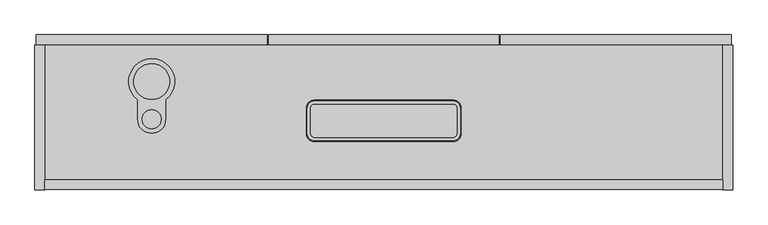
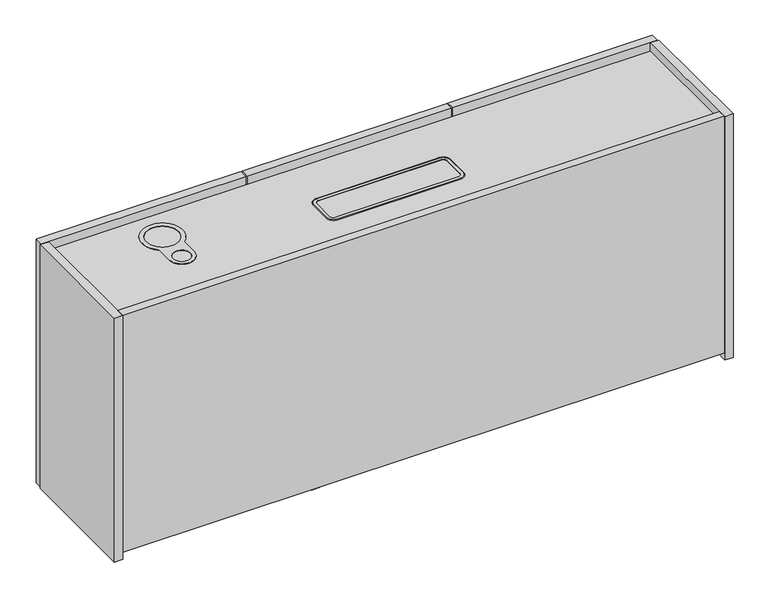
"""IFC4 building model written with IfcOpenShell, lengths in millimetres: furniture geometry, Geiger_GeigerOneCasegoods_UtilityCabinetForUseWithCredenzaDeskAccepts1Leg : Vertical Veneer 54Wx 12Dx 22.5H."""

from ifc_helpers import new_model, si_unit, point, frame, origin, place, context, project, spatial, polyline, circle_curve, ellipse_curve, trimmed, outline, extrude, faceted_brep, source, transform, mapped, element, save
from ifc_brep_helpers import plane_surface, cylinder_surface, revolved_surface, advanced_brep


def furniture_a89d6c0f(model_context):
    return source(origin(), model_context, "Body", "SolidModel", [
        faceted_brep([(1352.6, 19.5, 584.2), (1352.6, 0.5, 584.2), (1352.6, 0.5, 29.0), (1352.6, 19.5, 29.0), (1352.6, 284.3, 156.0), (1352.6, 265.3, 156.0), (1352.6, 265.3, 29.0), (1352.6, 284.3, 29.0), (19.0, 19.5, 584.2), (19.0, 19.5, 29.0), (19.0, 0.5, 29.0), (19.0, 0.5, 584.2), (19.0, 284.3, 156.0), (19.0, 284.3, 29.0), (19.0, 265.3, 29.0), (19.0, 265.3, 156.0), (467.0, 19.5, 29.0), (467.0, 19.5, 546.2), (448.0, 19.5, 546.2), (448.0, 19.5, 29.0), (467.0, 265.3, 29.0), (467.0, 283.875, 29.0), (448.0, 283.875, 29.0), (448.0, 265.3, 29.0), (448.0, 265.3, 156.0), (467.0, 265.3, 156.0), (448.0, 283.875, 156.0), (467.0, 283.875, 156.0), (448.0, 283.875, 546.2), (448.0, 283.875, 12.7), (448.0, 19.5, 12.7), (467.0, 283.875, 12.7), (467.0, 283.875, 546.2), (467.0, 19.5, 12.7)], [[[0, 1, 2, 3]], [[4, 5, 6, 7]], [[8, 9, 10, 11]], [[12, 13, 14, 15]], [[3, 16, 17, 18, 19, 9, 8, 0]], [[2, 10, 9, 19, 16, 3]], [[1, 11, 10, 2]], [[0, 8, 11, 1]], [[7, 13, 12, 4]], [[6, 20, 21, 22, 23, 14, 13, 7]], [[14, 23, 24, 15]], [[5, 25, 20, 6]], [[4, 12, 15, 24, 26, 27, 25, 5]], [[28, 26, 24, 23, 22, 29, 30, 19, 18]], [[31, 21, 20, 25, 27, 32, 17, 16, 33]], [[29, 22, 21, 31]], [[32, 27, 26, 28]], [[18, 17, 32, 28]], [[33, 16, 19, 30]], [[29, 31, 33, 30]]]),
        extrude(outline(polyline([(1352.6, 19.5), (19.0, 19.5), (19.0, 284.8), (1352.6, 284.8), (1352.6, 19.5)])), frame((0.0, 0.0, 546.2), z_axis=(0.0, 0.0, 1.0), x_axis=(1.0, 0.0, 0.0)), (0.0, 0.0, 1.0), 19.0),
        extrude(outline(polyline([(456.2, 304.8), (456.2, 285.8), (3.0, 285.8), (3.0, 304.8), (456.2, 304.8)])), frame((0.0, 0.0, 12.7), z_axis=(0.0, 0.0, 1.0), x_axis=(1.0, 0.0, 0.0)), (0.0, 0.0, 1.0), 571.5),
        extrude(outline(polyline([(1368.6, 304.8), (1368.6, 285.8), (915.4, 285.8), (915.4, 304.8), (1368.6, 304.8)])), frame((0.0, 0.0, 12.7), z_axis=(0.0, 0.0, 1.0), x_axis=(1.0, 0.0, 0.0)), (0.0, 0.0, 1.0), 571.5),
        extrude(outline(polyline([(912.4, 304.8), (912.4, 285.8), (459.2, 285.8), (459.2, 304.8), (912.4, 304.8)])), frame((0.0, 0.0, 12.7), z_axis=(0.0, 0.0, 1.0), x_axis=(1.0, 0.0, 0.0)), (0.0, 0.0, 1.0), 571.5),
        extrude(outline(polyline([(19.0, 284.8), (19.0, 0.0), (0.0, 0.0), (0.0, 284.8), (19.0, 284.8)])), frame((0.0, 0.0, 12.7), z_axis=(0.0, 0.0, 1.0), x_axis=(1.0, 0.0, 0.0)), (0.0, 0.0, 1.0), 571.5),
        extrude(outline(polyline([(1371.6, 284.8), (1371.6, 0.0), (1352.6, 0.0), (1352.6, 284.8), (1371.6, 284.8)])), frame((0.0, 0.0, 12.7), z_axis=(0.0, 0.0, 1.0), x_axis=(1.0, 0.0, 0.0)), (0.0, 0.0, 1.0), 571.5),
        advanced_brep(
        [(534.5203563, 110.825, 566.7), (533.2922964, 110.825, 565.2), (549.7, 94.4172964, 565.2), (549.7, 95.6453563, 566.7), (534.5203563, 160.025, 566.7), (533.2922964, 160.025, 565.2), (549.7, 175.2046437, 566.7), (549.7, 176.4327036, 565.2), (821.9, 175.2046437, 566.7), (821.9, 176.4327036, 565.2), (837.0796437, 160.025, 566.7), (838.3077036, 160.025, 565.2), (837.0796437, 110.825, 566.7), (838.3077036, 110.825, 565.2), (821.9, 95.6453563, 566.7), (821.9, 94.4172964, 565.2), (549.7, 102.925, 566.7), (541.8, 110.825, 566.7), (541.8, 160.025, 566.7), (549.7, 167.925, 566.7), (821.9, 167.925, 566.7), (829.8, 160.025, 566.7), (829.8, 110.825, 566.7), (821.9, 102.925, 566.7), (549.7, 102.925, 566.001635), (541.8, 110.825, 566.001635), (541.8, 160.025, 566.001635), (549.7, 167.925, 566.001635), (821.9, 167.925, 566.001635), (829.8, 160.025, 566.001635), (829.8, 110.825, 566.001635), (821.9, 102.925, 566.001635)],
        [
            (0, 1, circle_curve(frame((534.5203563, 110.825, 565.4472896), z_axis=(0.0, -1.0, 0.0), x_axis=(1.0, 0.0, 0.0)), 1.2527104)),
            (1, 2, circle_curve(frame((549.7, 110.825, 565.2), z_axis=(0.0, 0.0, 1.0), x_axis=(0.0, -1.0, 0.0)), 16.4077036)),
            (2, 3, circle_curve(frame((549.7, 95.6453563, 565.4472896), z_axis=(-1.0, 0.0, 0.0), x_axis=(0.0, 1.0, 0.0)), 1.2527104)),
            (3, 0, circle_curve(frame((549.7, 110.825, 566.7), z_axis=(0.0, 0.0, -1.0), x_axis=(0.0, -1.0, 0.0)), 15.1796437)),
            (0, 4),
            (4, 5, circle_curve(frame((534.5203563, 160.025, 565.4472896), z_axis=(0.0, -1.0, 0.0), x_axis=(1.0, 0.0, 0.0)), 1.2527104)),
            (5, 1),
            (4, 6, circle_curve(frame((549.7, 160.025, 566.7), z_axis=(0.0, 0.0, -1.0), x_axis=(-1.0, 0.0, 0.0)), 15.1796437)),
            (6, 7, circle_curve(frame((549.7, 175.2046437, 565.4472896), z_axis=(-1.0, 0.0, 0.0), x_axis=(0.0, -1.0, 0.0)), 1.2527104)),
            (7, 5, circle_curve(frame((549.7, 160.025, 565.2), z_axis=(0.0, 0.0, 1.0), x_axis=(-1.0, 0.0, 0.0)), 16.4077036)),
            (6, 8),
            (8, 9, circle_curve(frame((821.9, 175.2046437, 565.4472896), z_axis=(-1.0, 0.0, 0.0), x_axis=(0.0, -1.0, 0.0)), 1.2527104)),
            (9, 7),
            (8, 10, circle_curve(frame((821.9, 160.025, 566.7), z_axis=(0.0, 0.0, -1.0), x_axis=(0.0, 1.0, 0.0)), 15.1796437)),
            (10, 11, circle_curve(frame((837.0796437, 160.025, 565.4472896), z_axis=(0.0, 1.0, 0.0), x_axis=(-1.0, 0.0, 0.0)), 1.2527104)),
            (11, 9, circle_curve(frame((821.9, 160.025, 565.2), z_axis=(0.0, 0.0, 1.0), x_axis=(0.0, 1.0, 0.0)), 16.4077036)),
            (10, 12),
            (12, 13, circle_curve(frame((837.0796437, 110.825, 565.4472896), z_axis=(0.0, 1.0, 0.0), x_axis=(-1.0, 0.0, 0.0)), 1.2527104)),
            (13, 11),
            (12, 14, circle_curve(frame((821.9, 110.825, 566.7), z_axis=(0.0, 0.0, -1.0), x_axis=(1.0, 0.0, 0.0)), 15.1796437)),
            (14, 15, circle_curve(frame((821.9, 95.6453563, 565.4472896), z_axis=(1.0, 0.0, 0.0), x_axis=(0.0, 1.0, 0.0)), 1.2527104)),
            (15, 13, circle_curve(frame((821.9, 110.825, 565.2), z_axis=(0.0, 0.0, 1.0), x_axis=(1.0, 0.0, 0.0)), 16.4077036)),
            (2, 15),
            (14, 3),
            (16, 17, circle_curve(frame((549.7, 110.825, 566.7), z_axis=(0.0, 0.0, -1.0), x_axis=(0.0, -1.0, 0.0)), 7.9)),
            (17, 18),
            (18, 19, circle_curve(frame((549.7, 160.025, 566.7), z_axis=(0.0, 0.0, -1.0), x_axis=(-1.0, 0.0, 0.0)), 7.9)),
            (19, 20),
            (20, 21, circle_curve(frame((821.9, 160.025, 566.7), z_axis=(0.0, 0.0, -1.0), x_axis=(0.0, 1.0, 0.0)), 7.9)),
            (21, 22),
            (22, 23, circle_curve(frame((821.9, 110.825, 566.7), z_axis=(0.0, 0.0, -1.0), x_axis=(1.0, 0.0, 0.0)), 7.9)),
            (23, 16),
            (16, 24),
            (24, 25, circle_curve(frame((549.7, 110.825, 566.001635), z_axis=(0.0, 0.0, -1.0), x_axis=(0.0, -1.0, 0.0)), 7.9)),
            (25, 17),
            (25, 26),
            (26, 18),
            (26, 27, circle_curve(frame((549.7, 160.025, 566.001635), z_axis=(0.0, 0.0, -1.0), x_axis=(-1.0, 0.0, 0.0)), 7.9)),
            (27, 19),
            (27, 28),
            (28, 20),
            (28, 29, circle_curve(frame((821.9, 160.025, 566.001635), z_axis=(0.0, 0.0, -1.0), x_axis=(0.0, 1.0, 0.0)), 7.9)),
            (29, 21),
            (29, 30),
            (30, 22),
            (30, 31, circle_curve(frame((821.9, 110.825, 566.001635), z_axis=(0.0, 0.0, -1.0), x_axis=(1.0, 0.0, 0.0)), 7.9)),
            (31, 23),
            (31, 24),
        ],
        [
            revolved_surface(trimmed(ellipse_curve(frame((549.7, 95.6453563, 565.4472896), z_axis=(-1.0, 0.0, 0.0), x_axis=(0.0, 1.0, 0.0)), 1.2527104, 1.2527104), [point((549.7, 94.4172964, 565.2))], [point((549.7, 95.6453563, 566.7))], True, "CARTESIAN"), (549.7, 110.825, 565.2), (0.0, 0.0, 1.0)),
            cylinder_surface(frame((534.5203563, 110.825, 565.4472896), z_axis=(0.0, -1.0, 0.0), x_axis=(1.0, 0.0, 0.0)), 1.2527104),
            revolved_surface(trimmed(ellipse_curve(frame((534.5203563, 160.025, 565.4472896), z_axis=(0.0, 1.0, 0.0), x_axis=(1.0, 0.0, 0.0)), 1.2527104, 1.2527104), [point((533.2922964, 160.025, 565.2))], [point((534.5203563, 160.025, 566.7))], True, "CARTESIAN"), (549.7, 160.025, 565.2), (0.0, 0.0, 1.0)),
            cylinder_surface(frame((549.7, 175.2046437, 565.4472896), z_axis=(-1.0, 0.0, 0.0), x_axis=(0.0, -1.0, 0.0)), 1.2527104),
            revolved_surface(trimmed(ellipse_curve(frame((821.9, 175.2046437, 565.4472896), z_axis=(1.0, 0.0, 0.0), x_axis=(0.0, -1.0, 0.0)), 1.2527104, 1.2527104), [point((821.9, 176.4327036, 565.2))], [point((821.9, 175.2046437, 566.7))], True, "CARTESIAN"), (821.9, 160.025, 565.2), (0.0, 0.0, 1.0)),
            cylinder_surface(frame((837.0796437, 160.025, 565.4472896), z_axis=(0.0, 1.0, 0.0), x_axis=(-1.0, 0.0, 0.0)), 1.2527104),
            revolved_surface(trimmed(ellipse_curve(frame((837.0796437, 110.825, 565.4472896), z_axis=(0.0, -1.0, 0.0), x_axis=(-1.0, 0.0, 0.0)), 1.2527104, 1.2527104), [point((838.3077036, 110.825, 565.2))], [point((837.0796437, 110.825, 566.7))], True, "CARTESIAN"), (821.9, 110.825, 565.2), (0.0, 0.0, 1.0)),
            cylinder_surface(frame((821.9, 95.6453563, 565.4472896), z_axis=(1.0, 0.0, 0.0), x_axis=(0.0, 1.0, 0.0)), 1.2527104),
            plane_surface(frame((821.9, 95.6453563, 566.7), z_axis=(0.0, 0.0, 1.0), x_axis=(-1.0, 0.0, 0.0))),
            revolved_surface(polyline([(549.7, 102.925, 566.7), (549.7, 102.925, 566.001635)]), (549.7, 110.825, 565.2), (0.0, 0.0, 1.0)),
            plane_surface(frame((541.8, 110.825, 566.7), z_axis=(1.0, 0.0, 0.0), x_axis=(0.0, 1.0, 0.0))),
            revolved_surface(polyline([(541.8000000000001, 160.025, 566.7), (541.8000000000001, 160.025, 566.001635)]), (549.7, 160.025, 565.2), (0.0, 0.0, 1.0)),
            plane_surface(frame((549.7, 167.925, 566.7), z_axis=(0.0, -1.0, 0.0), x_axis=(1.0, 0.0, 0.0))),
            revolved_surface(polyline([(821.9, 167.925, 566.7), (821.9, 167.925, 566.001635)]), (821.9, 160.025, 565.2), (0.0, 0.0, 1.0)),
            plane_surface(frame((829.8, 160.025, 566.7), z_axis=(-1.0, 0.0, 0.0), x_axis=(0.0, -1.0, 0.0))),
            revolved_surface(polyline([(829.8, 110.825, 566.7), (829.8, 110.825, 566.001635)]), (821.9, 110.825, 565.2), (0.0, 0.0, 1.0)),
            plane_surface(frame((821.9, 102.925, 566.7), z_axis=(0.0, 1.0, 0.0), x_axis=(-1.0, 0.0, 0.0))),
            plane_surface(frame((821.9, 102.925, 565.2), z_axis=(0.0, 0.0, -1.0), x_axis=(-1.0, 0.0, 0.0))),
            plane_surface(frame((549.7, 102.925, 566.001635), z_axis=(0.0, 0.0, 1.0), x_axis=(-1.0, 0.0, 0.0))),
        ],
        [
            (0, [[1, 2, 3, 4]]),
            (1, [[5, 6, 7, -1]]),
            (2, [[8, 9, 10, -6]]),
            (3, [[11, 12, 13, -9]]),
            (4, [[14, 15, 16, -12]]),
            (5, [[17, 18, 19, -15]]),
            (6, [[20, 21, 22, -18]]),
            (7, [[23, -21, 24, -3]]),
            (8, [[-24, -20, -17, -14, -11, -8, -5, -4], [25, 26, 27, 28, 29, 30, 31, 32]]),
            (9, [[33, 34, 35, -25]]),
            (10, [[-35, 36, 37, -26]]),
            (11, [[-37, 38, 39, -27]]),
            (12, [[-39, 40, 41, -28]]),
            (13, [[-41, 42, 43, -29]]),
            (14, [[-43, 44, 45, -30]]),
            (15, [[-45, 46, 47, -31]]),
            (16, [[-47, 48, -33, -32]]),
            (17, [[-7, -10, -13, -16, -19, -22, -23, -2]]),
            (18, [[-48, -46, -44, -42, -40, -38, -36, -34]]),
        ],
    ),
        advanced_brep(
        [(257.1, 177.1090661, 565.2), (257.1, 138.6393843, 565.2), (202.1, 138.6393843, 565.2), (202.1, 177.1090661, 565.2), (257.1, 177.1090661, 566.8), (202.1, 177.1090661, 566.8), (202.1, 138.6393843, 566.8), (257.1, 138.6393843, 566.8), (229.6, 157.5707393, 566.8), (229.6, 119.7080294, 566.8), (229.6, 248.2790899, 566.8), (229.6, 177.4196387, 566.8), (229.6, 119.7080294, 566.001635), (229.6, 157.5707393, 566.001635), (229.6, 177.4196387, 566.001635), (229.6, 248.2790899, 566.001635)],
        [
            (0, 1),
            (1, 2, circle_curve(frame((229.6, 138.6393843, 565.2), z_axis=(0.0, 0.0, -1.0), x_axis=(0.0, -1.0, 0.0)), 27.5)),
            (2, 3),
            (3, 0, circle_curve(frame((229.6, 212.8493643, 565.2), z_axis=(0.0, 0.0, -1.0), x_axis=(0.0, -1.0, 0.0)), 45.095664)),
            (4, 5, circle_curve(frame((229.6, 212.8493643, 566.8), z_axis=(0.0, 0.0, 1.0), x_axis=(0.0, -1.0, 0.0)), 45.095664)),
            (5, 6),
            (6, 7, circle_curve(frame((229.6, 138.6393843, 566.8), z_axis=(0.0, 0.0, 1.0), x_axis=(0.0, -1.0, 0.0)), 27.5)),
            (7, 4),
            (8, 9, circle_curve(frame((229.6, 138.6393843, 566.8), z_axis=(0.0, 0.0, -1.0), x_axis=(0.0, -1.0, 0.0)), 18.931355)),
            (9, 8, circle_curve(frame((229.6, 138.6393843, 566.8), z_axis=(0.0, 0.0, -1.0), x_axis=(0.0, -1.0, 0.0)), 18.931355)),
            (10, 11, circle_curve(frame((229.6, 212.8493643, 566.8), z_axis=(0.0, 0.0, -1.0), x_axis=(0.0, -1.0, 0.0)), 35.4297256)),
            (11, 10, circle_curve(frame((229.6, 212.8493643, 566.8), z_axis=(0.0, 0.0, -1.0), x_axis=(0.0, -1.0, 0.0)), 35.4297256)),
            (0, 4),
            (7, 1),
            (6, 2),
            (5, 3),
            (9, 12),
            (12, 13, circle_curve(frame((229.6, 138.6393843, 566.001635), z_axis=(0.0, 0.0, -1.0), x_axis=(0.0, -1.0, 0.0)), 18.931355)),
            (13, 8),
            (13, 12, circle_curve(frame((229.6, 138.6393843, 566.001635), z_axis=(0.0, 0.0, -1.0), x_axis=(0.0, -1.0, 0.0)), 18.931355)),
            (11, 14),
            (14, 15, circle_curve(frame((229.6, 212.8493643, 566.001635), z_axis=(0.0, 0.0, -1.0), x_axis=(0.0, -1.0, 0.0)), 35.4297256)),
            (15, 10),
            (15, 14, circle_curve(frame((229.6, 212.8493643, 566.001635), z_axis=(0.0, 0.0, -1.0), x_axis=(0.0, -1.0, 0.0)), 35.4297256)),
        ],
        [
            plane_surface(frame((229.6, 265.3, 565.2), z_axis=(0.0, 0.0, -1.0), x_axis=(-1.0, 0.0, 0.0))),
            plane_surface(frame((229.6, 265.3, 566.8), z_axis=(0.0, 0.0, 1.0), x_axis=(-1.0, 0.0, 0.0))),
            plane_surface(frame((257.1, 138.6393843, 565.2), z_axis=(1.0, 0.0, 0.0), x_axis=(0.0, 0.0, 1.0))),
            cylinder_surface(frame((229.6, 138.6393843, 565.2), z_axis=(0.0, 0.0, -1.0), x_axis=(0.0, -1.0, 0.0)), 27.5),
            plane_surface(frame((202.1, 177.1090661, 565.2), z_axis=(-1.0, 0.0, 0.0), x_axis=(0.0, 0.0, 1.0))),
            cylinder_surface(frame((229.6, 212.8493643, 565.2), z_axis=(0.0, 0.0, -1.0), x_axis=(0.0, -1.0, 0.0)), 45.095664),
            revolved_surface(polyline([(229.6, 119.70802929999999, 566.8), (229.6, 119.70802929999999, 566.001635)]), (229.6, 138.6393843, 565.2), (0.0, 0.0, 1.0)),
            revolved_surface(polyline([(229.6, 177.4196387, 566.8), (229.6, 177.4196387, 566.001635)]), (229.6, 212.8493643, 565.2), (0.0, 0.0, 1.0)),
            plane_surface(frame((210.668645, 138.6393843, 566.001635), z_axis=(0.0, 0.0, 1.0), x_axis=(0.0, 1.0, 0.0))),
        ],
        [
            (0, [[1, 2, 3, 4]]),
            (1, [[5, 6, 7, 8], [9, 10], [11, 12]]),
            (2, [[13, -8, 14, -1]]),
            (3, [[-14, -7, 15, -2]]),
            (4, [[-15, -6, 16, -3]]),
            (5, [[-16, -5, -13, -4]]),
            (6, [[17, 18, 19, -10]]),
            (6, [[-19, 20, -17, -9]]),
            (7, [[21, 22, 23, -12]]),
            (7, [[-23, 24, -21, -11]]),
            (8, [[-20, -18]]),
            (8, [[-24, -22]]),
        ],
    ),
    ])


if __name__ == "__main__":
    model = new_model("IFC4")
    model_context = context("Model", 3, world=origin())
    ifc_project = project(units=[si_unit("LENGTHUNIT", "METRE", prefix="MILLI")], contexts=[model_context])
    site = spatial("IfcSite", under=ifc_project)
    building = spatial("IfcBuilding", under=site)
    placement = place(None, origin())
    furniture_shape = furniture_a89d6c0f(model_context)
    element("IfcFurniture", 1, ObjectType="Geiger_GeigerOneCasegoods_UtilityCabinetForUseWithCredenzaDeskAccepts1Leg : Vertical Veneer 54Wx 12Dx 22.5H", at=placement, inside=building, context=model_context, shape_type="MappedRepresentation", body=[
        mapped(furniture_shape, transform((0.0, 0.0, 0.0), x_axis=(1.0, 0.0, 0.0), y_axis=(0.0, 1.0, 0.0), z_axis=(0.0, 0.0, 1.0))),
    ])
    save(model, "model.ifc")
